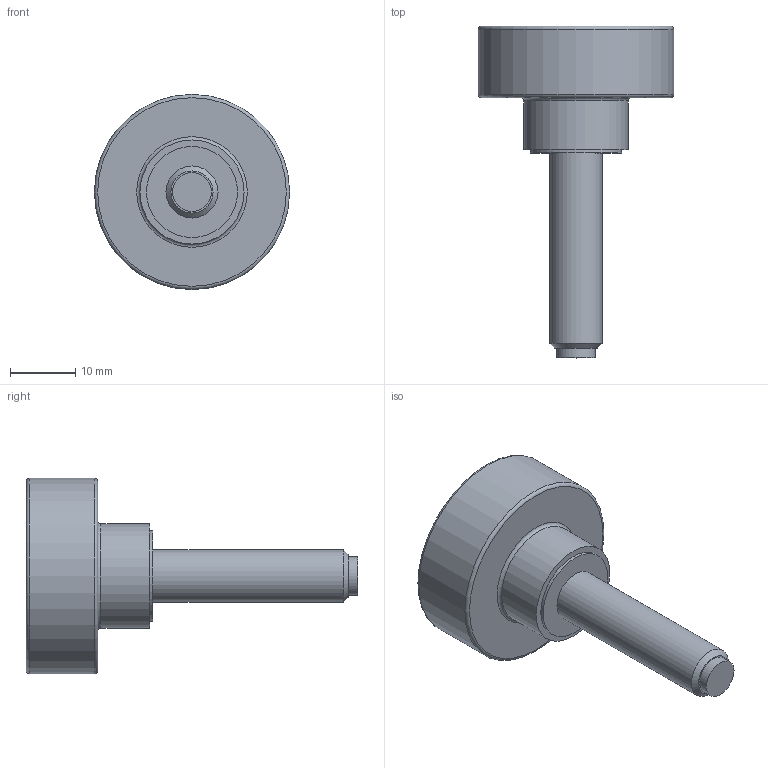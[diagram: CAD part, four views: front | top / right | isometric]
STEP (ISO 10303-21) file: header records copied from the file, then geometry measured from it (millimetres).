
FILE_DESCRIPTION( ( 'STEP AP203' ), '1' );
FILE_NAME( 'C:/Temp/Ganter_Step_05_03_2020/data/2_2/gn_421_10/Hollow knurled knob, with tip GN 421.10-M8-30-MS.stp', '2020-03-05T12:25:35', ( 'License CC BY-ND 4.0' ), ( 'CADENAS' ), ' ', 'PARTsolutions', ' ' );
FILE_SCHEMA( ( 'CONFIG_CONTROL_DESIGN' ) );
Length unit declared in the file: millimetre
Products named in the file (1): _Hollow knurled knob, with tip GN 421.10-M8-30-MS
Bounding box: 30 x 51 x 30 mm (x, y, z)
Volume: 7311.1 mm3; surface area: 4261.5 mm2
Topology: 1 solids, 1 shells, 19 faces, 30 edges, 19 vertices
Faces by surface type: plane 8, cylinder 7, torus 3, cone 1
Full cylindrical faces by diameter (mm): 6 x1, 8 x1, 12 x1, 14 x1, 16 x1, 26 x1, 30 x1
Entity records: 418 total; most frequent: DIRECTION 76, CARTESIAN_POINT 56, AXIS2_PLACEMENT_3D 38, EDGE_LOOP 36, ORIENTED_EDGE 36, FACE_OUTER_BOUND 29, ADVANCED_FACE 19, EDGE_CURVE 18
